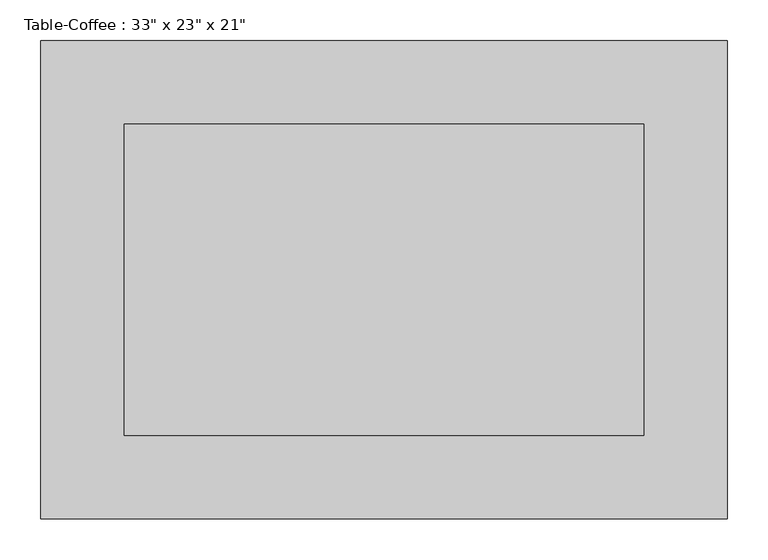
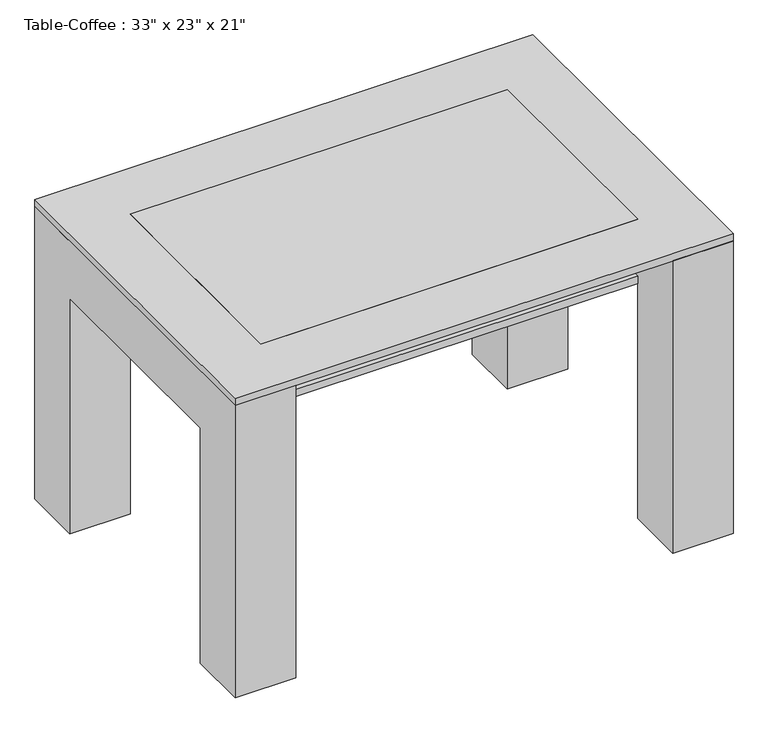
"""IFC4 building model written with IfcOpenShell, lengths in millimetres: furniture geometry."""

from ifc_helpers import new_model, si_unit, frame, origin, place, context, project, spatial, polyline, outline, extrude, source, transform, mapped, element, save


def furniture_73f28dff(model_context):
    return source(origin(), model_context, "Body", "SweptSolid", [
        extrude(outline(polyline([(335.7657667, 285.7110778), (335.7657667, -95.2889222), (-299.2342333, -95.2889222), (-299.2342333, 285.7110778), (335.7657667, 285.7110778)])), frame((0.0, 0.0, 419.1), z_axis=(0.0, 0.0, 1.0), x_axis=(1.0, 0.0, 0.0)), (0.0, 0.0, 1.0), 12.7),
        extrude(outline(polyline([(387.3110778, 0.0), (285.7110778, 0.0), (285.7110778, 419.1), (-95.2889222, 419.1), (-95.2889222, 0.0), (-196.8889222, 0.0), (-196.8889222, 520.7), (387.3110778, 520.7), (387.3110778, 0.0)])), frame((335.7657667, 0.0, 0.0), z_axis=(1.0, 0.0, 0.0), x_axis=(0.0, 1.0, 0.0)), (0.0, 0.0, 1.0), 101.6),
        extrude(outline(polyline([(387.3110778, 520.7), (387.3110778, 0.0), (285.7110778, 0.0), (285.7110778, 419.1), (-95.2889222, 419.1), (-95.2889222, 0.0), (-196.8889222, 0.0), (-196.8889222, 520.7), (387.3110778, 520.7)])), frame((-400.8342333, 0.0, 0.0), z_axis=(1.0, 0.0, 0.0), x_axis=(0.0, 1.0, 0.0)), (0.0, 0.0, 1.0), 101.6),
        extrude(outline(polyline([(335.7657667, 285.7110778), (335.7657667, -95.2889222), (-299.2342333, -95.2889222), (-299.2342333, 285.7110778), (335.7657667, 285.7110778)])), frame((0.0, 0.0, 520.7), z_axis=(0.0, 0.0, 1.0), x_axis=(1.0, 0.0, 0.0)), (0.0, 0.0, 1.0), 12.7),
        extrude(outline(polyline([(437.3657667, 387.3110778), (437.3657667, -196.8889222), (-400.8342333, -196.8889222), (-400.8342333, 387.3110778), (437.3657667, 387.3110778)]), holes=[polyline([(335.7657667, 285.7110778), (-299.2342333, 285.7110778), (-299.2342333, -95.2889222), (335.7657667, -95.2889222), (335.7657667, 285.7110778)])]), frame((0.0, 0.0, 520.7), z_axis=(0.0, 0.0, 1.0), x_axis=(1.0, 0.0, 0.0)), (0.0, 0.0, 1.0), 12.7),
    ])


if __name__ == "__main__":
    model = new_model("IFC4")
    model_context = context("Model", 3, world=origin())
    ifc_project = project(units=[si_unit("LENGTHUNIT", "METRE", prefix="MILLI")], contexts=[model_context])
    site = spatial("IfcSite", under=ifc_project)
    building = spatial("IfcBuilding", under=site)
    placement = place(None, origin())
    furniture_shape = furniture_73f28dff(model_context)
    element("IfcFurniture", 1, ObjectType="Table-Coffee : 33\" x 23\" x 21\"", at=placement, inside=building, context=model_context, shape_type="MappedRepresentation", body=[
        mapped(furniture_shape, transform((0.0, 0.0, 0.0), x_axis=(1.0, 0.0, 0.0), y_axis=(0.0, 1.0, 0.0), z_axis=(0.0, 0.0, 1.0))),
    ])
    save(model, "model.ifc")
